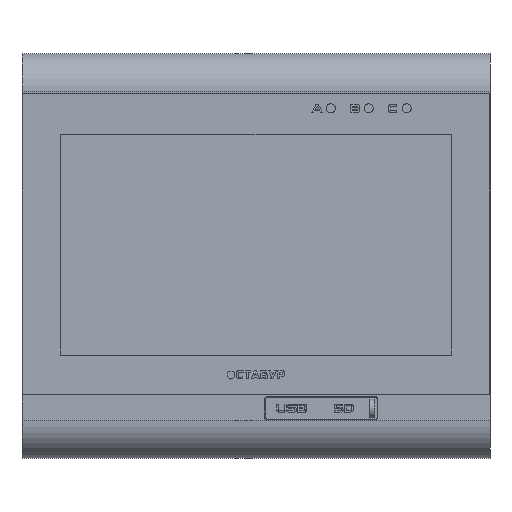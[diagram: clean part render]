
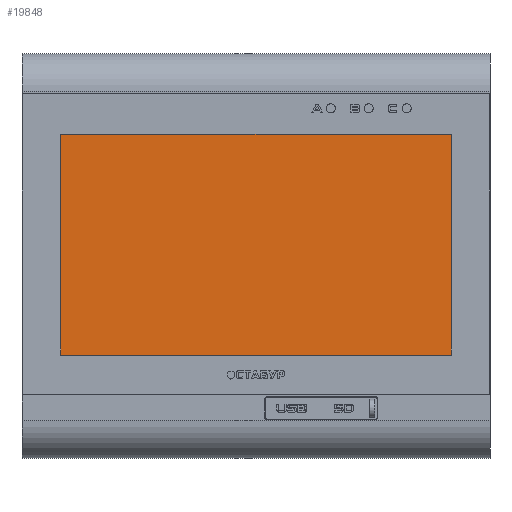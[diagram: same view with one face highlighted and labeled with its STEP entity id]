
A CAD part, top view. The second image highlights one B-rep face of the part: STEP entity #19848.
In plain terms, the highlighted planar face has unit normal (0, 0, 1).
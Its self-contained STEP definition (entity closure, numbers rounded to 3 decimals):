
#140 = DIRECTION ( 'NONE',  ( 0., 1., 0. ) ) ;
#1678 = PLANE ( 'NONE',  #68887 ) ;
#4074 = LINE ( 'NONE', #27398, #54375 ) ;
#4980 = ORIENTED_EDGE ( 'NONE', *, *, #67933, .T. ) ;
#5406 = LINE ( 'NONE', #34512, #44469 ) ;
#5810 = CARTESIAN_POINT ( 'NONE',  ( 169.75, 128.134, 12.88 ) ) ;
#6715 = DIRECTION ( 'NONE',  ( 1., 0., 0. ) ) ;
#8318 = ORIENTED_EDGE ( 'NONE', *, *, #13076, .T. ) ;
#8352 = VERTEX_POINT ( 'NONE', #13137 ) ;
#9106 = VERTEX_POINT ( 'NONE', #43212 ) ;
#9209 = DIRECTION ( 'NONE',  ( 1., 0., 0. ) ) ;
#13076 = EDGE_CURVE ( 'NONE', #62437, #9106, #4074, .T. ) ;
#13137 = CARTESIAN_POINT ( 'NONE',  ( 169.75, 40.834, 12.88 ) ) ;
#14683 = ORIENTED_EDGE ( 'NONE', *, *, #35698, .T. ) ;
#17895 = CARTESIAN_POINT ( 'NONE',  ( 169.75, 128.134, 12.88 ) ) ;
#18103 = CARTESIAN_POINT ( 'NONE',  ( 92.5, 25.284, 12.88 ) ) ;
#19848 = ADVANCED_FACE ( 'NONE', ( #47925 ), #1678, .T. ) ;
#21352 = CARTESIAN_POINT ( 'NONE',  ( 15.25, 128.134, 12.88 ) ) ;
#27398 = CARTESIAN_POINT ( 'NONE',  ( 15.25, 128.134, 12.88 ) ) ;
#32455 = VECTOR ( 'NONE', #140, 1000. ) ;
#34512 = CARTESIAN_POINT ( 'NONE',  ( 15.25, 128.134, 12.88 ) ) ;
#35698 = EDGE_CURVE ( 'NONE', #8352, #43068, #58572, .T. ) ;
#35836 = CARTESIAN_POINT ( 'NONE',  ( 15.25, 40.834, 12.88 ) ) ;
#43068 = VERTEX_POINT ( 'NONE', #17895 ) ;
#43212 = CARTESIAN_POINT ( 'NONE',  ( 15.25, 40.834, 12.88 ) ) ;
#44469 = VECTOR ( 'NONE', #57780, 1000. ) ;
#44583 = EDGE_LOOP ( 'NONE', ( #8318, #4980, #14683, #67408 ) ) ;
#45044 = DIRECTION ( 'NONE',  ( 0., -1., 0. ) ) ;
#46520 = LINE ( 'NONE', #35836, #68537 ) ;
#47925 = FACE_OUTER_BOUND ( 'NONE', #44583, .T. ) ;
#50181 = DIRECTION ( 'NONE',  ( 0., 0., 1. ) ) ;
#54055 = EDGE_CURVE ( 'NONE', #43068, #62437, #5406, .T. ) ;
#54375 = VECTOR ( 'NONE', #45044, 1000. ) ;
#57780 = DIRECTION ( 'NONE',  ( -1., 0., 0. ) ) ;
#58572 = LINE ( 'NONE', #5810, #32455 ) ;
#62437 = VERTEX_POINT ( 'NONE', #21352 ) ;
#67408 = ORIENTED_EDGE ( 'NONE', *, *, #54055, .T. ) ;
#67933 = EDGE_CURVE ( 'NONE', #9106, #8352, #46520, .T. ) ;
#68537 = VECTOR ( 'NONE', #6715, 1000. ) ;
#68887 = AXIS2_PLACEMENT_3D ( 'NONE', #18103, #50181, #9209 ) ;
